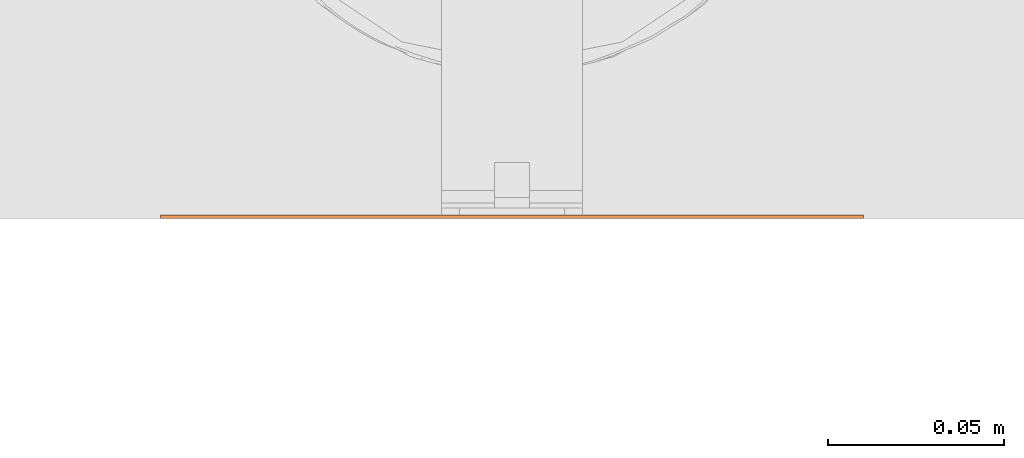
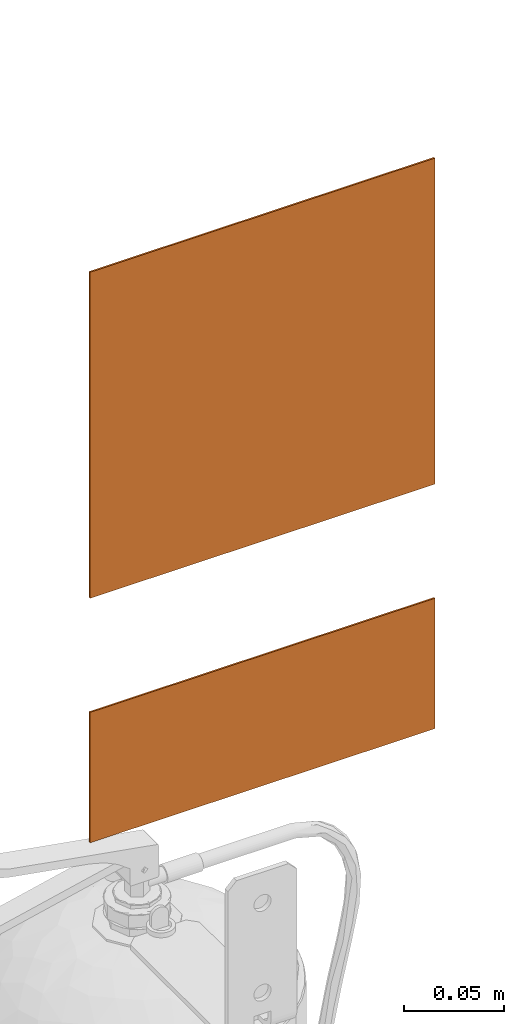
# One storey, part 102 of 119: 2 proxies.
"""IFC2X3 building model written with IfcOpenShell, lengths in metres."""

from ifc_helpers import new_model, entity, si_unit, converted_unit, derived_unit, direction, frame, frame_2d, origin, origin_2d_with_axis, place, context, subcontext, project, spatial, polyline, circle_curve, parameter, trimmed, segment, composite_curve, rectangle, outline, extrude, source, transform, mapped, material, material_list, type_object, type_shapes, element, save


model = new_model("IFC2X3")

# Units and contexts
model_context = context("Model", 3, precision=1e-05, world=origin(), true_north=direction((6.12303176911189e-17, 1.0)))
body_context = subcontext(model_context, "Body", "Model", "MODEL_VIEW")
ifc_project = project(units=[si_unit("LENGTHUNIT", "METRE"), si_unit("AREAUNIT", "SQUARE_METRE"), si_unit("VOLUMEUNIT", "CUBIC_METRE"), converted_unit("PLANEANGLEUNIT", "DEGREE", entity("IfcRatioMeasure", 0.0174532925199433), si_unit("PLANEANGLEUNIT", "RADIAN"), dimensions=[0, 0, 0, 0, 0, 0, 0]), si_unit("MASSUNIT", "GRAM", prefix="KILO"), derived_unit("MASSDENSITYUNIT", [(si_unit("MASSUNIT", "GRAM", prefix="KILO"), 1), (si_unit("LENGTHUNIT", "METRE"), -3)]), derived_unit("MOMENTOFINERTIAUNIT", [(si_unit("LENGTHUNIT", "METRE"), 4)]), si_unit("TIMEUNIT", "SECOND"), si_unit("FREQUENCYUNIT", "HERTZ"), si_unit("THERMODYNAMICTEMPERATUREUNIT", "DEGREE_CELSIUS"), derived_unit("THERMALTRANSMITTANCEUNIT", [(si_unit("MASSUNIT", "GRAM", prefix="KILO"), 1), (si_unit("THERMODYNAMICTEMPERATUREUNIT", "KELVIN"), -1), (si_unit("TIMEUNIT", "SECOND"), -3)]), derived_unit("VOLUMETRICFLOWRATEUNIT", [(si_unit("LENGTHUNIT", "METRE"), 3), (si_unit("TIMEUNIT", "SECOND"), -1)]), si_unit("ELECTRICCURRENTUNIT", "AMPERE"), si_unit("ELECTRICVOLTAGEUNIT", "VOLT"), si_unit("POWERUNIT", "WATT"), si_unit("FORCEUNIT", "NEWTON", prefix="KILO"), si_unit("ILLUMINANCEUNIT", "LUX"), si_unit("LUMINOUSFLUXUNIT", "LUMEN"), si_unit("LUMINOUSINTENSITYUNIT", "CANDELA"), derived_unit("USERDEFINED", [(si_unit("MASSUNIT", "GRAM", prefix="KILO"), -1), (si_unit("LENGTHUNIT", "METRE"), -2), (si_unit("TIMEUNIT", "SECOND"), 3), (si_unit("LUMINOUSFLUXUNIT", "LUMEN"), 1)]), derived_unit("LINEARVELOCITYUNIT", [(si_unit("LENGTHUNIT", "METRE"), 1), (si_unit("TIMEUNIT", "SECOND"), -1)]), si_unit("PRESSUREUNIT", "PASCAL"), derived_unit("USERDEFINED", [(si_unit("LENGTHUNIT", "METRE"), -2), (si_unit("MASSUNIT", "GRAM", prefix="KILO"), 1), (si_unit("TIMEUNIT", "SECOND"), -2)]), derived_unit("LINEARFORCEUNIT", [(si_unit("MASSUNIT", "GRAM", prefix="KILO"), 1), (si_unit("LENGTHUNIT", "METRE"), 1), (si_unit("TIMEUNIT", "SECOND"), -2), (si_unit("LENGTHUNIT", "METRE"), -1)]), derived_unit("PLANARFORCEUNIT", [(si_unit("MASSUNIT", "GRAM", prefix="KILO"), 1), (si_unit("LENGTHUNIT", "METRE"), 1), (si_unit("TIMEUNIT", "SECOND"), -2), (si_unit("LENGTHUNIT", "METRE"), -2)])], contexts=[model_context])

# Site, building, storey
site_placement = place(None, origin())
site = spatial("IfcSite", under=ifc_project, at=site_placement, Name="Default", CompositionType="ELEMENT")
building_placement = place(site_placement, origin())
building = spatial("IfcBuilding", under=site, at=building_placement, CompositionType="ELEMENT")
storey_placement = place(building_placement, origin())
storey = spatial("IfcBuildingStorey", under=building, at=storey_placement, Name="PAV. 01 - TÉRREO", CompositionType="ELEMENT", Elevation=0.0)

# Proxies
ifc_material_1 = material(Name="Plastico branco")
ifc_material_2 = material(Name="Plastico vermelho")
ifc_material_list_1 = material_list([ifc_material_1, ifc_material_2])
building_element_proxy_type_1 = type_object("IfcBuildingElementProxyType", Name="Sinalização de equipamentos - E05 - Extintor de incêndio:Distância 08m", PredefinedType="NOTDEFINED", material=ifc_material_1)
shared_shape_1 = source(origin(), body_context, "Body", "SweptSolid", [
    extrude(outline(composite_curve([segment(polyline([(-0.039533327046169, -0.0988107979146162), (0.0136590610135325, -0.0988107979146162)]), True, "CONTINUOUS"), segment(polyline([(0.0136590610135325, -0.0988107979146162), (0.0136590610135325, -0.0150548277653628)]), True, "CONTINUOUS"), segment(polyline([(0.0136590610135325, -0.0150548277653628), (0.0132403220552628, -0.0112272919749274)]), True, "CONTINUOUS"), segment(polyline([(0.0132403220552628, -0.0112272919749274), (0.0119841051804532, -0.00798860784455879)]), True, "CONTINUOUS"), segment(polyline([(0.0119841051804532, -0.00798860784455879), (0.00989041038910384, -0.00533877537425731)]), True, "CONTINUOUS"), segment(polyline([(0.00989041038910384, -0.00533877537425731), (0.00695923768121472, -0.00327779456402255)]), True, "CONTINUOUS"), segment(polyline([(0.00695923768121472, -0.00327779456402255), (0.00319058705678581, -0.00180566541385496)]), True, "CONTINUOUS"), segment(polyline([(0.00319058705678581, -0.00180566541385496), (-0.00141554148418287, -0.000922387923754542)]), True, "CONTINUOUS"), segment(polyline([(-0.00141554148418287, -0.000922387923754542), (-0.00685914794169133, -0.000627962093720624)]), True, "CONTINUOUS"), segment(polyline([(-0.00685914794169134, -0.000627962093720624), (-0.00685914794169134, 0.00837547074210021)]), True, "CONTINUOUS"), segment(polyline([(-0.00685914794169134, 0.00837547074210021), (0.000568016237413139, 0.00837547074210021)]), True, "CONTINUOUS"), segment(polyline([(0.000568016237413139, 0.00837547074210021), (0.021500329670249, -0.0075875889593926)]), True, "CONTINUOUS"), segment(polyline([(0.021500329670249, -0.0075875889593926), (0.021500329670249, -0.0104328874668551)]), True, "CONTINUOUS"), segment(polyline([(0.021500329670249, -0.0104328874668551), (0.0245059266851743, -0.0104328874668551)]), True, "CONTINUOUS"), segment(polyline([(0.0245059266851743, -0.0104328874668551), (0.0245059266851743, -0.00811335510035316)]), True, "CONTINUOUS"), segment(polyline([(0.0245059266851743, -0.00811335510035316), (0.0243642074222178, -0.00545038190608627)]), True, "CONTINUOUS"), segment(polyline([(0.0243642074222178, -0.00545038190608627), (0.0239570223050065, -0.0032112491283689)]), True, "CONTINUOUS"), segment(polyline([(0.0239570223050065, -0.0032112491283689), (0.0233113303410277, -0.00132119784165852)]), True, "CONTINUOUS"), segment(polyline([(0.0233113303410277, -0.00132119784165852), (0.0224540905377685, 0.00029453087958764)]), True, "CONTINUOUS"), segment(polyline([(0.0224540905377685, 0.00029453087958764), (0.0214122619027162, 0.00171069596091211)]), True, "CONTINUOUS"), segment(polyline([(0.0214122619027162, 0.00171069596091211), (0.0202128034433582, 0.00300205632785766)]), True, "CONTINUOUS"), segment(polyline([(0.0202128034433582, 0.00300205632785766), (0.0188826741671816, 0.00424337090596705)]), True, "CONTINUOUS"), segment(polyline([(0.0188826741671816, 0.00424337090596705), (0.0144021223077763, 0.00811180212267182)]), True, "CONTINUOUS"), segment(polyline([(0.0144021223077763, 0.00811180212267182), (0.0113518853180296, 0.0106145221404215)]), True, "CONTINUOUS"), segment(polyline([(0.0113518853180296, 0.0106145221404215), (0.0085825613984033, 0.0127576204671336)]), True, "CONTINUOUS"), segment(polyline([(0.0085825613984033, 0.0127576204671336), (0.00738733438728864, 0.0136170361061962)]), True, "CONTINUOUS"), segment(polyline([(0.00738733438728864, 0.0136170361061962), (0.00631521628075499, 0.0143235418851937)]), True, "CONTINUOUS"), segment(polyline([(0.00631521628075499, 0.0143235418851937), (0.00532850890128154, 0.0148903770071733)]), True, "CONTINUOUS"), segment(polyline([(0.00532850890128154, 0.0148903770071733), (0.00438926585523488, 0.0153309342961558)]), True, "CONTINUOUS"), segment(polyline([(0.00438926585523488, 0.0153309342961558), (0.00345954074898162, 0.0156586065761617)]), True, "CONTINUOUS"), segment(polyline([(0.00345954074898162, 0.0156586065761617), (0.00250138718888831, 0.0158867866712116)]), True, "CONTINUOUS"), segment(polyline([(0.00250138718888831, 0.0158867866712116), (0.00144087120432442, 0.0160289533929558)]), True, "CONTINUOUS"), segment(polyline([(0.00144087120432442, 0.0160289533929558), (-0.000108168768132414, 0.0160993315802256)]), True, "CONTINUOUS"), segment(polyline([(-0.000108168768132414, 0.0160993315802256), (-0.00685914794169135, 0.0160831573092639)]), True, "CONTINUOUS"), segment(polyline([(-0.00685914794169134, 0.0160831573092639), (-0.00685914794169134, 0.0213863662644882)]), True, "CONTINUOUS"), segment(polyline([(-0.00685914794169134, 0.0213863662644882), (-0.0177728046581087, 0.0213863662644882)]), True, "CONTINUOUS"), segment(polyline([(-0.0177728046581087, 0.0213863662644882), (-0.0177728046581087, 0.0160831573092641)]), True, "CONTINUOUS"), segment(polyline([(-0.0177728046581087, 0.0160831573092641), (-0.0288467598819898, 0.0160831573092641)]), True, "CONTINUOUS"), segment(trimmed(circle_curve(frame_2d((-0.0288467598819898, 0.0122293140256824), x_axis=(-1.0, 0.0)), 0.00385384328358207), [parameter(270.0)], [parameter(90.0000000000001)], True, "PARAMETER"), True, "CONTINUOUS"), segment(polyline([(-0.0288467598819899, 0.00837547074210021), (-0.0190151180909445, 0.00837547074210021)]), True, "CONTINUOUS"), segment(polyline([(-0.0190151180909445, 0.00837547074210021), (-0.0190151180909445, -0.000627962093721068)]), True, "CONTINUOUS"), segment(polyline([(-0.0190151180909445, -0.000627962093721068), (-0.024458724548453, -0.000922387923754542)]), True, "CONTINUOUS"), segment(polyline([(-0.024458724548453, -0.000922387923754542), (-0.0290648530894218, -0.00180566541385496)]), True, "CONTINUOUS"), segment(polyline([(-0.0290648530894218, -0.00180566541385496), (-0.0328335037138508, -0.00327779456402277)]), True, "CONTINUOUS"), segment(polyline([(-0.0328335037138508, -0.00327779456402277), (-0.03576467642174, -0.00533877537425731)]), True, "CONTINUOUS"), segment(polyline([(-0.03576467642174, -0.00533877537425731), (-0.0378583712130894, -0.00798860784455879)]), True, "CONTINUOUS"), segment(polyline([(-0.0378583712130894, -0.00798860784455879), (-0.0391145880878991, -0.0112272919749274)]), True, "CONTINUOUS"), segment(polyline([(-0.0391145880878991, -0.0112272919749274), (-0.039533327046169, -0.0150548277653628)]), True, "CONTINUOUS"), segment(polyline([(-0.039533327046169, -0.0150548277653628), (-0.039533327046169, -0.0988107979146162)]), True, "CONTINUOUS")], self_intersect=False)), frame((-0.0129371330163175, -0.0011, 1.94006139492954), z_axis=(0.0, 1.0, 0.0), x_axis=(-1.0, 0.0, 0.0)), (0.0, 0.0, 1.0), 0.0011),
    extrude(rectangle(XDim=0.001, YDim=0.179, at=origin_2d_with_axis()), frame((0.0, -0.0005, 1.8105), z_axis=(0.0, 0.0, 1.0), x_axis=(0.0, 1.0, 0.0)), (0.0, 0.0, 1.0), 0.179),
    extrude(outline(polyline([(-0.100000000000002, -0.1), (0.100000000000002, -0.1), (0.100000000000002, 0.1), (-0.100000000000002, 0.1), (-0.100000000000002, -0.1)]), holes=[polyline([(-0.0895000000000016, -0.0895000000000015), (-0.0895000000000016, 0.0894999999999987), (0.0894999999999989, 0.0894999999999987), (0.0894999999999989, -0.0895000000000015), (-0.0895000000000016, -0.0895000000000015)])]), frame((0.0, -0.001, 1.9), z_axis=(0.0, 1.0, 0.0), x_axis=(0.0, 0.0, -1.0)), (0.0, 0.0, 1.0), 0.001),
])
type_shapes(building_element_proxy_type_1, [shared_shape_1])
proxy_1_placement = place(storey_placement, frame((55.1240605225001, 32.2871958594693, 0.0), z_axis=(0.0, 0.0, 1.0), x_axis=(-1.0, 0.0, 0.0)))
element("IfcBuildingElementProxy", 1, at=proxy_1_placement, inside=storey, type_object=building_element_proxy_type_1, material=ifc_material_list_1, Name="Sinalização de equipamentos - E05 - Extintor de incêndio:Distância 08m", ObjectType="Sinalização de equipamentos - E05 - Extintor de incêndio:Distância 08m", context=body_context, shape_type="MappedRepresentation", body=[
    mapped(shared_shape_1, transform((0.0, 0.0, 0.0), scale=1.0)),
])
ifc_material_3 = material(Name="Plastico Preto")
ifc_material_4 = material(Name="Plastico azul claro")
ifc_material_5 = material(Name="Plastico Verde")
ifc_material_list_2 = material_list([ifc_material_3, ifc_material_4, ifc_material_2, ifc_material_1, ifc_material_5])
building_element_proxy_type_2 = type_object("IfcBuildingElementProxyType", Name="Sinalização de equipamentos - E05 - Extintor de incêndio - TIPO 2:Placa de extintor - E6-A", PredefinedType="NOTDEFINED", material=ifc_material_3)
shared_shape_2 = source(origin(), body_context, "Body", "SweptSolid", [
    extrude(rectangle(XDim=0.001, YDim=0.0243464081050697, at=origin_2d_with_axis()), frame((0.0791678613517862, -0.0005, 0.0143679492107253), z_axis=(0.0, 0.0, 1.0), x_axis=(0.0, 1.0, 0.0)), (0.0, 0.0, 1.0), 0.0243153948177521),
    extrude(rectangle(XDim=0.001, YDim=0.0243464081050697, at=origin_2d_with_axis()), frame((0.0514092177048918, -0.0005, 0.0143679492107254), z_axis=(0.0, 0.0, 1.0), x_axis=(0.0, 1.0, 0.0)), (0.0, 0.0, 1.0), 0.0243153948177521),
    extrude(rectangle(XDim=0.001, YDim=0.0243464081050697, at=origin_2d_with_axis()), frame((0.023605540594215, -0.0005, 0.0143679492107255), z_axis=(0.0, 0.0, 1.0), x_axis=(0.0, 1.0, 0.0)), (0.0, 0.0, 1.0), 0.0243153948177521),
    extrude(rectangle(XDim=0.001, YDim=0.0243464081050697, at=origin_2d_with_axis()), frame((-0.00415310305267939, -0.0005, 0.0143679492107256), z_axis=(0.0, 0.0, 1.0), x_axis=(0.0, 1.0, 0.0)), (0.0, 0.0, 1.0), 0.0243153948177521),
    extrude(outline(polyline([(-0.0399999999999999, -0.1), (0.0399999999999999, -0.1), (0.0399999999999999, 0.1), (-0.0399999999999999, 0.1), (-0.0399999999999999, -0.1)]), holes=[polyline([(-0.0319999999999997, 0.091), (-0.0150022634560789, 0.091), (-0.0150022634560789, -0.091), (-0.0319999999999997, -0.091), (-0.0319999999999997, 0.091)]), polyline([(-0.010791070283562, 0.091), (0.0319999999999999, 0.091), (0.0319999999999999, 0.0473282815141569), (-0.010791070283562, 0.0473282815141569), (-0.010791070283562, 0.091)]), polyline([(0.00131665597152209, 0.0441091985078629), (0.0256320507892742, 0.0441091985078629), (0.0256320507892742, 0.0197627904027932), (0.00131665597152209, 0.0197627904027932), (0.00131665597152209, 0.0441091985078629)]), polyline([(0.00131665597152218, 0.0163263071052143), (0.0256320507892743, 0.0163263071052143), (0.0256320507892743, -0.00802010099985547), (0.00131665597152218, -0.00802010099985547), (0.00131665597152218, 0.0163263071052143)]), polyline([(0.00131665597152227, -0.0114323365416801), (0.0256320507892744, -0.0114323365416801), (0.0256320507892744, -0.0357787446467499), (0.00131665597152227, -0.0357787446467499), (0.00131665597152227, -0.0114323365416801)]), polyline([(0.00131665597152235, -0.0635824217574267), (0.00131665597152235, -0.039236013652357), (0.0256320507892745, -0.039236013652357), (0.0256320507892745, -0.0635824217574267), (0.00131665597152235, -0.0635824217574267)]), polyline([(0.00131665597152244, -0.0669946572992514), (0.0256320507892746, -0.0669946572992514), (0.0256320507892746, -0.091), (0.00131665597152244, -0.091), (0.00131665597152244, -0.0669946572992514)])]), frame((0.0, -0.001, 0.0399999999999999), z_axis=(0.0, 1.0, 0.0), x_axis=(0.0, 0.0, -1.0)), (0.0, 0.0, 1.0), 0.001),
    extrude(outline(composite_curve([segment(trimmed(circle_curve(frame_2d((-0.00182713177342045, 0.0030692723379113), x_axis=(1.0, 0.0)), 0.00333179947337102), [parameter(180.0)], [parameter(270.0)], True, "PARAMETER"), True, "CONTINUOUS"), segment(polyline([(-0.00182713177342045, -0.000262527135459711), (-0.000430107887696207, -0.000262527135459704)]), True, "CONTINUOUS"), segment(polyline([(-0.000430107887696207, -0.000262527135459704), (-0.000430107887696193, -0.00350797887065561)]), True, "CONTINUOUS"), segment(polyline([(-0.000430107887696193, -0.00350797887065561), (-0.00249820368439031, -0.00350797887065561)]), True, "CONTINUOUS"), segment(polyline([(-0.00249820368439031, -0.00350797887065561), (-0.00742535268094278, 7.18044171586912e-05)]), True, "CONTINUOUS"), segment(polyline([(-0.00742535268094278, 7.18044171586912e-05), (-0.00742535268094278, 0.00166630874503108)]), True, "CONTINUOUS"), segment(polyline([(-0.00742535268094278, 0.00166630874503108), (-0.00871124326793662, 0.00166630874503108)]), True, "CONTINUOUS"), segment(polyline([(-0.00871124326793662, 0.00166630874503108), (-0.00846384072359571, -0.00134355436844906)]), True, "CONTINUOUS"), segment(trimmed(circle_curve(frame_2d((-0.00608099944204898, -0.00114769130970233), x_axis=(1.0, 0.0)), 0.00239087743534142), [parameter(184.698993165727)], [parameter(232.0)], True, "PARAMETER"), True, "CONTINUOUS"), segment(polyline([(-0.00755297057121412, -0.00303172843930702), (-0.0030496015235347, -0.00655014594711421)]), True, "CONTINUOUS"), segment(polyline([(-0.0030496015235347, -0.00655014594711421), (-0.000124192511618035, -0.00655014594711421)]), True, "CONTINUOUS"), segment(polyline([(-0.000124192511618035, -0.00655014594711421), (-0.000124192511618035, -0.00788602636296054)]), True, "CONTINUOUS"), segment(polyline([(-0.000124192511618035, -0.00788602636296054), (0.003207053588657, -0.00788602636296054)]), True, "CONTINUOUS"), segment(polyline([(0.003207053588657, -0.00788602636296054), (0.003207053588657, -0.00698801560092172)]), True, "CONTINUOUS"), segment(polyline([(0.003207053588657, -0.00698801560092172), (0.00540783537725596, -0.00698801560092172)]), True, "CONTINUOUS"), segment(polyline([(0.00540783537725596, -0.00698801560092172), (0.00665542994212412, -0.00574042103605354)]), True, "CONTINUOUS"), segment(polyline([(0.00665542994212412, -0.00574042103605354), (0.00665542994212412, -0.00450724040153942)]), True, "CONTINUOUS"), segment(polyline([(0.00665542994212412, -0.00450724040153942), (0.00491919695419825, -0.00324579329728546)]), True, "CONTINUOUS"), segment(polyline([(0.00491919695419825, -0.00324579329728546), (0.00355615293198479, -0.00324579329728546)]), True, "CONTINUOUS"), segment(polyline([(0.00355615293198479, -0.00324579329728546), (0.00355615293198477, -0.000262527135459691)]), True, "CONTINUOUS"), segment(polyline([(0.00355615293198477, -0.000262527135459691), (0.00500257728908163, -0.000262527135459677)]), True, "CONTINUOUS"), segment(trimmed(circle_curve(frame_2d((0.00500257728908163, 0.00284153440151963), x_axis=(1.0, 0.0)), 0.00310406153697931), [parameter(270.0)], [parameter(1.52666624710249e-13)], True, "PARAMETER"), True, "CONTINUOUS"), segment(polyline([(0.00810663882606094, 0.00284153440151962), (0.0081066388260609, 0.0313568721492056)]), True, "CONTINUOUS"), segment(polyline([(0.0081066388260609, 0.0313568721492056), (-0.00515893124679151, 0.0313568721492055)]), True, "CONTINUOUS"), segment(polyline([(-0.00515893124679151, 0.0313568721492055), (-0.00515893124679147, 0.00306927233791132)]), True, "CONTINUOUS")], self_intersect=False)), frame((-0.0705753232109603, -0.001, 0.0413479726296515), z_axis=(0.0, 1.0, 0.0), x_axis=(1.0, 0.0, 0.0)), (0.0, 0.0, 1.0), 0.001),
    extrude(rectangle(XDim=0.001, YDim=0.0243464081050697, at=origin_2d_with_axis()), frame((-0.0319359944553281, -0.0005, 0.0143679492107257), z_axis=(0.0, 0.0, 1.0), x_axis=(0.0, 1.0, 0.0)), (0.0, 0.0, 1.0), 0.0243153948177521),
    extrude(outline(polyline([(-0.0218358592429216, -0.021395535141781), (0.0218358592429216, -0.021395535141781), (0.0218358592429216, 0.021395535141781), (-0.0218358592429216, 0.021395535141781), (-0.0218358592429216, -0.021395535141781)]), holes=[composite_curve([segment(polyline([(-0.00669545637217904, -0.0194044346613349), (-0.00669545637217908, 0.00911090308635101)]), True, "CONTINUOUS"), segment(trimmed(circle_curve(frame_2d((-0.00359139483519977, 0.00911090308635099), x_axis=(-1.0, 0.0)), 0.00310406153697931), [parameter(270.0)], [parameter(360.0)], True, "PARAMETER"), False, "CONTINUOUS"), segment(polyline([(-0.0035913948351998, 0.0122149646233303), (-0.00214497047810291, 0.0122149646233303)]), True, "CONTINUOUS"), segment(polyline([(-0.00214497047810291, 0.0122149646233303), (-0.00214497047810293, 0.0151982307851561)]), True, "CONTINUOUS"), segment(polyline([(-0.00214497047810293, 0.0151982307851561), (-0.0035080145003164, 0.0151982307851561)]), True, "CONTINUOUS"), segment(polyline([(-0.0035080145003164, 0.0151982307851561), (-0.00524424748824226, 0.01645967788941)]), True, "CONTINUOUS"), segment(polyline([(-0.00524424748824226, 0.01645967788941), (-0.00524424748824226, 0.0176928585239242)]), True, "CONTINUOUS"), segment(polyline([(-0.00524424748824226, 0.0176928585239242), (-0.0039966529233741, 0.0189404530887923)]), True, "CONTINUOUS"), segment(polyline([(-0.0039966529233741, 0.0189404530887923), (-0.00179587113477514, 0.0189404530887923)]), True, "CONTINUOUS"), segment(polyline([(-0.00179587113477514, 0.0189404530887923), (-0.00179587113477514, 0.0198384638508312)]), True, "CONTINUOUS"), segment(polyline([(-0.00179587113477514, 0.0198384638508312), (0.00153537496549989, 0.0198384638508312)]), True, "CONTINUOUS"), segment(polyline([(0.00153537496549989, 0.0198384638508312), (0.00153537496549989, 0.0185025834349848)]), True, "CONTINUOUS"), segment(polyline([(0.00153537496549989, 0.0185025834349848), (0.00446078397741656, 0.0185025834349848)]), True, "CONTINUOUS"), segment(polyline([(0.00446078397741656, 0.0185025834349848), (0.00896415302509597, 0.0149841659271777)]), True, "CONTINUOUS"), segment(trimmed(circle_curve(frame_2d((0.00749218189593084, 0.0131001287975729), x_axis=(-1.0, 0.0)), 0.00239087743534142), [parameter(184.698993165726)], [parameter(231.999999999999)], True, "PARAMETER"), False, "CONTINUOUS"), segment(polyline([(0.00987502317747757, 0.0132959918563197), (0.0101224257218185, 0.0102861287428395)]), True, "CONTINUOUS"), segment(polyline([(0.0101224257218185, 0.0102861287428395), (0.00883653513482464, 0.0102861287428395)]), True, "CONTINUOUS"), segment(polyline([(0.00883653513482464, 0.0102861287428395), (0.00883653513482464, 0.0118806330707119)]), True, "CONTINUOUS"), segment(polyline([(0.00883653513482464, 0.0118806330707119), (0.00390938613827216, 0.0154604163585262)]), True, "CONTINUOUS"), segment(polyline([(0.00390938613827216, 0.0154604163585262), (0.00184129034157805, 0.0154604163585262)]), True, "CONTINUOUS"), segment(polyline([(0.00184129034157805, 0.0154604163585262), (0.00184129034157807, 0.0122149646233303)]), True, "CONTINUOUS"), segment(polyline([(0.00184129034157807, 0.0122149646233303), (0.00323831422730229, 0.0122149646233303)]), True, "CONTINUOUS"), segment(trimmed(circle_curve(frame_2d((0.00323831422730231, 0.00888316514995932), x_axis=(-1.0, 0.0)), 0.00333179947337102), [parameter(180.0)], [parameter(270.0)], True, "PARAMETER"), False, "CONTINUOUS"), segment(polyline([(0.00657011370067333, 0.00888316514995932), (0.00657011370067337, -0.0194044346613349)]), True, "CONTINUOUS"), segment(polyline([(0.00657011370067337, -0.0194044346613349), (-0.00669545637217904, -0.0194044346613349)]), True, "CONTINUOUS")], self_intersect=False)]), frame((-0.0691641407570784, -0.001, 0.0293955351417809), z_axis=(0.0, 1.0, 0.0), x_axis=(-1.0, 0.0, 0.0)), (0.0, 0.0, 1.0), 0.001),
    extrude(rectangle(XDim=0.001, YDim=0.182, at=origin_2d_with_axis()), frame((0.0, -0.0005, 0.0550022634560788), z_axis=(0.0, 0.0, 1.0), x_axis=(0.0, 1.0, 0.0)), (0.0, 0.0, 1.0), 0.0169977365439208),
])
type_shapes(building_element_proxy_type_2, [shared_shape_2])
proxy_2_placement = place(storey_placement, frame((55.1240605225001, 32.2871958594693, 1.65), z_axis=(0.0, 0.0, 1.0), x_axis=(-1.0, 0.0, 0.0)))
element("IfcBuildingElementProxy", 2, at=proxy_2_placement, inside=storey, type_object=building_element_proxy_type_2, material=ifc_material_list_2, Name="Sinalização de equipamentos - E05 - Extintor de incêndio - TIPO 2:Placa de extintor - E6-A", ObjectType="Sinalização de equipamentos - E05 - Extintor de incêndio - TIPO 2:Placa de extintor - E6-A", context=body_context, shape_type="MappedRepresentation", body=[
    mapped(shared_shape_2, transform((0.0, 0.0, 0.0), scale=1.0)),
])

save(model, "model.ifc")
